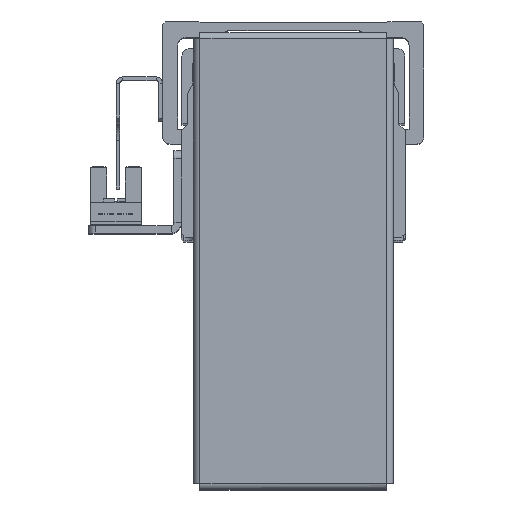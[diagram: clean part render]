
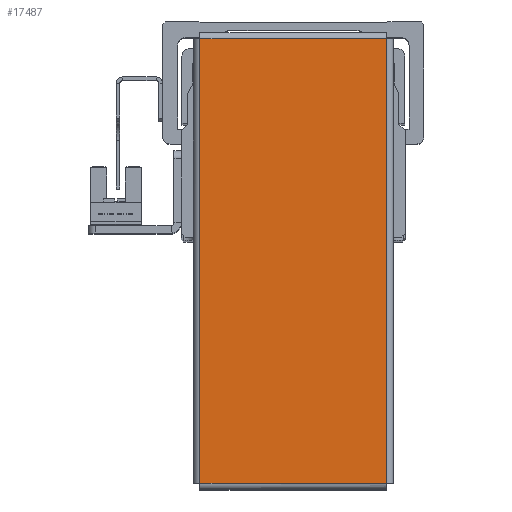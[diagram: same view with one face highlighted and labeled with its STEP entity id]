
A CAD part, top view. The second image highlights one B-rep face of the part: STEP entity #17487.
In plain terms, the highlighted planar face has unit normal (0, 0, 1) as drawn and (0, 0, -1) by its records, which use the part's own axes.
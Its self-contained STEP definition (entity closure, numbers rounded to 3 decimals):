
#7122 = FACE_OUTER_BOUND ( 'NONE', #9548, .T. ) ;
#7612 = EDGE_CURVE ( 'NONE', #18252, #18276, #11548, .T. ) ;
#7614 = EDGE_CURVE ( 'NONE', #18229, #18252, #11555, .T. ) ;
#7852 = EDGE_CURVE ( 'NONE', #18278, #18229, #11946, .T. ) ;
#7877 = EDGE_CURVE ( 'NONE', #18276, #18278, #11959, .T. ) ;
#9548 = EDGE_LOOP ( 'NONE', ( #10687, #10835, #10769, #10637 ) ) ;
#10637 = ORIENTED_EDGE ( 'NONE', *, *, #7612, .T. ) ;
#10687 = ORIENTED_EDGE ( 'NONE', *, *, #7877, .T. ) ;
#10769 = ORIENTED_EDGE ( 'NONE', *, *, #7614, .T. ) ;
#10835 = ORIENTED_EDGE ( 'NONE', *, *, #7852, .T. ) ;
#11548 = LINE ( 'NONE', #16381, #11582 ) ;
#11555 = LINE ( 'NONE', #16379, #11588 ) ;
#11582 = VECTOR ( 'NONE', #16371, 1000. ) ;
#11588 = VECTOR ( 'NONE', #16397, 1000. ) ;
#11946 = LINE ( 'NONE', #28759, #11947 ) ;
#11947 = VECTOR ( 'NONE', #28719, 1000. ) ;
#11957 = VECTOR ( 'NONE', #28933, 1000. ) ;
#11959 = LINE ( 'NONE', #28913, #11957 ) ;
#16371 = DIRECTION ( 'NONE',  ( 1., 0., 0. ) ) ;
#16379 = CARTESIAN_POINT ( 'NONE',  ( -59.513, -25.043, -1. ) ) ;
#16381 = CARTESIAN_POINT ( 'NONE',  ( -59.543, 25.013, -1. ) ) ;
#16397 = DIRECTION ( 'NONE',  ( 0., 1., 0. ) ) ;
#17487 = ADVANCED_FACE ( 'NONE', ( #7122 ), #25117, .F. ) ;
#18229 = VERTEX_POINT ( 'NONE', #20458 ) ;
#18252 = VERTEX_POINT ( 'NONE', #20421 ) ;
#18276 = VERTEX_POINT ( 'NONE', #20510 ) ;
#18278 = VERTEX_POINT ( 'NONE', #20469 ) ;
#20421 = CARTESIAN_POINT ( 'NONE',  ( -59.513, 25.013, -1. ) ) ;
#20458 = CARTESIAN_POINT ( 'NONE',  ( -59.513, -25.013, -1. ) ) ;
#20469 = CARTESIAN_POINT ( 'NONE',  ( 59.513, -25.013, -1. ) ) ;
#20510 = CARTESIAN_POINT ( 'NONE',  ( 59.513, 25.013, -1. ) ) ;
#22693 = AXIS2_PLACEMENT_3D ( 'NONE', #25137, #25130, #25166 ) ;
#25117 = PLANE ( 'NONE',  #22693 ) ;
#25130 = DIRECTION ( 'NONE',  ( 0., 0., 1. ) ) ;
#25137 = CARTESIAN_POINT ( 'NONE',  ( 0., 0., -1. ) ) ;
#25166 = DIRECTION ( 'NONE',  ( 1., 0., 0. ) ) ;
#28719 = DIRECTION ( 'NONE',  ( -1., 0., 0. ) ) ;
#28759 = CARTESIAN_POINT ( 'NONE',  ( 59.543, -25.013, -1. ) ) ;
#28913 = CARTESIAN_POINT ( 'NONE',  ( 59.513, 25.043, -1. ) ) ;
#28933 = DIRECTION ( 'NONE',  ( 0., -1., 0. ) ) ;
